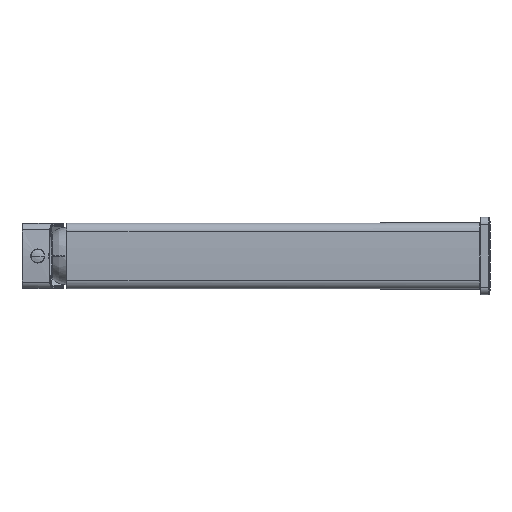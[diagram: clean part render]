
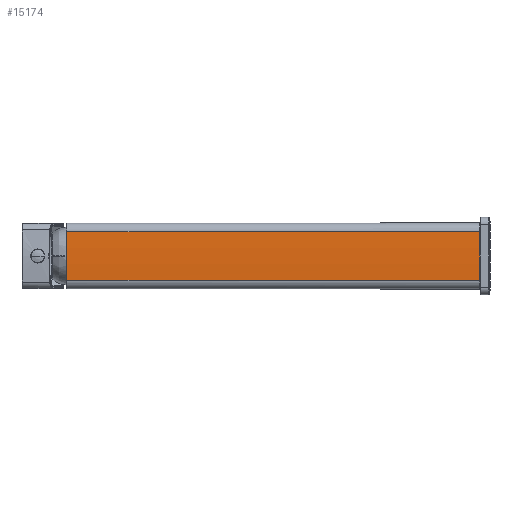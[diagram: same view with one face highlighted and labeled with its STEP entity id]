
A CAD part, left-side view. The second image highlights one B-rep face of the part: STEP entity #15174.
In plain terms, the highlighted free-form (B-spline) face has degree [3, 3] with [6, 4] control points.
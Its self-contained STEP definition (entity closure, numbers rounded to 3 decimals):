
#2582=CARTESIAN_POINT('',(21.122,276.502,16.267));
#2584=DIRECTION('',(0.003,-1.,0.));
#2585=VECTOR('',#2584,276.202);
#2586=CARTESIAN_POINT('',(21.122,276.502,16.267));
#2587=LINE('',#2586,#2585);
#2588=CARTESIAN_POINT('',(22.001,0.301,16.359));
#2922=CARTESIAN_POINT('',(-328.725,276.501,
0.));
#2923=DIRECTION('',(0.,1.,0.));
#2924=DIRECTION('',(0.999,0.,0.046));
#2925=AXIS2_PLACEMENT_3D('',#2922,#2923,#2924);
#2927=DIRECTION('',(0.003,-1.,0.));
#2928=VECTOR('',#2927,276.202);
#2929=CARTESIAN_POINT('',(21.122,276.502,-16.267));
#2930=LINE('',#2929,#2928);
#2931=CARTESIAN_POINT('',(-360.356,0.301,
0.));
#2932=DIRECTION('',(0.,-1.,0.));
#2933=DIRECTION('',(0.999,0.,-0.043));
#2934=AXIS2_PLACEMENT_3D('',#2931,#2932,#2933);
#6778=VERTEX_POINT('',#2588);
#6781=VERTEX_POINT('',#2582);
#6843=CARTESIAN_POINT('',(21.999,0.301,
-16.36));
#6844=VERTEX_POINT('',#6843);
#6845=CARTESIAN_POINT('',(21.123,276.502,-16.266));
#6846=VERTEX_POINT('',#6845);
#15141=CARTESIAN_POINT('',(21.075,282.026,16.918));
#15142=CARTESIAN_POINT('',(21.379,186.276,16.949));
#15143=CARTESIAN_POINT('',(21.684,90.526,16.981));
#15144=CARTESIAN_POINT('',(21.988,-5.223,
17.013));
#15145=CARTESIAN_POINT('',(21.085,282.026,16.702));
#15146=CARTESIAN_POINT('',(21.389,186.276,16.733));
#15147=CARTESIAN_POINT('',(21.694,90.526,16.765));
#15148=CARTESIAN_POINT('',(21.998,-5.223,
16.796));
#15149=CARTESIAN_POINT('',(21.611,282.026,5.648));
#15150=CARTESIAN_POINT('',(21.901,186.276,5.658));
#15151=CARTESIAN_POINT('',(22.192,90.526,5.668));
#15152=CARTESIAN_POINT('',(22.482,-5.223,
5.678));
#15153=CARTESIAN_POINT('',(21.611,282.026,
-5.648));
#15154=CARTESIAN_POINT('',(21.901,186.276,
-5.658));
#15155=CARTESIAN_POINT('',(22.192,90.526,
-5.668));
#15156=CARTESIAN_POINT('',(22.482,-5.223,
-5.678));
#15157=CARTESIAN_POINT('',(21.085,282.026,
-16.702));
#15158=CARTESIAN_POINT('',(21.389,186.276,
-16.733));
#15159=CARTESIAN_POINT('',(21.694,90.526,
-16.765));
#15160=CARTESIAN_POINT('',(21.998,-5.223,
-16.796));
#15161=CARTESIAN_POINT('',(21.075,282.026,
-16.918));
#15162=CARTESIAN_POINT('',(21.379,186.276,
-16.949));
#15163=CARTESIAN_POINT('',(21.684,90.526,
-16.981));
#15164=CARTESIAN_POINT('',(21.988,-5.223,
-17.013));
#15165=B_SPLINE_SURFACE_WITH_KNOTS('',3,3,((#15141,#15142,#15143,#15144),
(#15145,#15146,#15147,#15148),(#15149,#15150,#15151,#15152),(#15153,#15154,
#15155,#15156),(#15157,#15158,#15159,#15160),(#15161,#15162,#15163,#15164)),
.UNSPECIFIED.,.F.,.F.,.F.,(4,1,1,4),(4,4),(-0.02,0.,1.,
1.02),(-0.01,1.01),.UNSPECIFIED.);
#15167=ORIENTED_EDGE('',*,*,#15166,.T.);
#15169=ORIENTED_EDGE('',*,*,#15168,.T.);
#15170=ORIENTED_EDGE('',*,*,#15132,.T.);
#15171=ORIENTED_EDGE('',*,*,#14548,.F.);
#15172=EDGE_LOOP('',(#15167,#15169,#15170,#15171));
#15173=FACE_OUTER_BOUND('',#15172,.F.);
#2926=CIRCLE('',#2925,350.227);
#2935=CIRCLE('',#2934,382.705);
#14548=EDGE_CURVE('',#6781,#6778,#2587,.T.);
#15132=EDGE_CURVE('',#6844,#6778,#2935,.T.);
#15166=EDGE_CURVE('',#6781,#6846,#2926,.T.);
#15168=EDGE_CURVE('',#6846,#6844,#2930,.T.);
#15174=ADVANCED_FACE('',(#15173),#15165,.F.);
